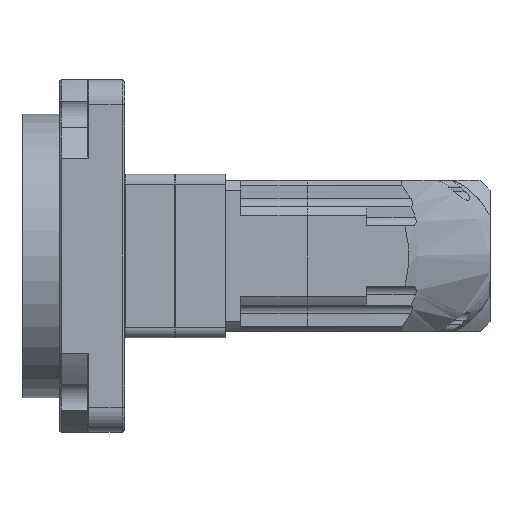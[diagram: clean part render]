
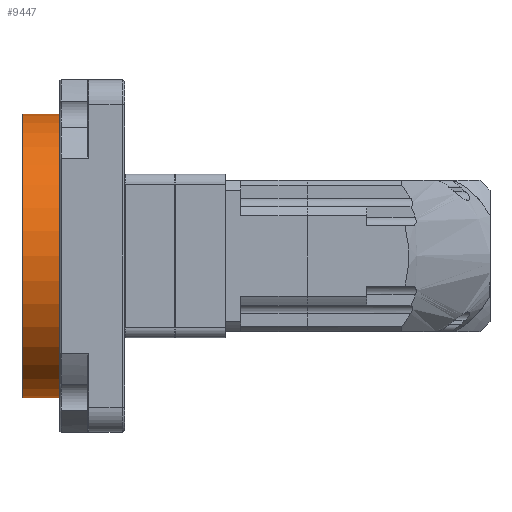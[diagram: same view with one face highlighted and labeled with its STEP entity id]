
A CAD part, left-side view. The second image highlights one B-rep face of the part: STEP entity #9447.
In plain terms, the highlighted cylindrical face has radius 112.5 mm (diameter 225 mm), a partial arc.
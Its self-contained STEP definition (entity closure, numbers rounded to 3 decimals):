
#6621 = CONICAL_SURFACE('',#6622,112.5,0.785);
#6622 = AXIS2_PLACEMENT_3D('',#6623,#6624,#6625);
#6623 = CARTESIAN_POINT('',(-229.364,88.399,
    345.));
#6624 = DIRECTION('',(0.,-1.,0.));
#6625 = DIRECTION('',(0.,0.,-1.));
#7729 = VERTEX_POINT('',#7730);
#7730 = CARTESIAN_POINT('',(-229.364,88.399,
    457.5));
#7753 = VERTEX_POINT('',#7754);
#7754 = CARTESIAN_POINT('',(-229.364,88.399,
    232.5));
#7775 = EDGE_CURVE('',#7729,#7753,#7776,.T.);
#7776 = SURFACE_CURVE('',#7777,(#7782,#7789),.PCURVE_S1.);
#7777 = CIRCLE('',#7778,112.5);
#7778 = AXIS2_PLACEMENT_3D('',#7779,#7780,#7781);
#7779 = CARTESIAN_POINT('',(-229.364,88.399,
    345.));
#7780 = DIRECTION('',(0.,-1.,-0.));
#7781 = DIRECTION('',(0.,0.,-1.));
#7782 = PCURVE('',#6621,#7783);
#7783 = DEFINITIONAL_REPRESENTATION('',(#7784),#7788);
#7784 = LINE('',#7785,#7786);
#7785 = CARTESIAN_POINT('',(0.,0.));
#7786 = VECTOR('',#7787,1.);
#7787 = DIRECTION('',(1.,0.));
#7788 = ( GEOMETRIC_REPRESENTATION_CONTEXT(2) 
PARAMETRIC_REPRESENTATION_CONTEXT() REPRESENTATION_CONTEXT('2D SPACE',''
  ) );
#7789 = PCURVE('',#7790,#7795);
#7790 = CYLINDRICAL_SURFACE('',#7791,112.5);
#7791 = AXIS2_PLACEMENT_3D('',#7792,#7793,#7794);
#7792 = CARTESIAN_POINT('',(-229.364,88.899,
    345.));
#7793 = DIRECTION('',(-0.,-1.,-0.));
#7794 = DIRECTION('',(0.,0.,-1.));
#7795 = DEFINITIONAL_REPRESENTATION('',(#7796),#7800);
#7796 = LINE('',#7797,#7798);
#7797 = CARTESIAN_POINT('',(0.,0.5));
#7798 = VECTOR('',#7799,1.);
#7799 = DIRECTION('',(1.,0.));
#7800 = ( GEOMETRIC_REPRESENTATION_CONTEXT(2) 
PARAMETRIC_REPRESENTATION_CONTEXT() REPRESENTATION_CONTEXT('2D SPACE',''
  ) );
#7822 = CYLINDRICAL_SURFACE('',#7823,112.5);
#7823 = AXIS2_PLACEMENT_3D('',#7824,#7825,#7826);
#7824 = CARTESIAN_POINT('',(-229.364,88.899,
    345.));
#7825 = DIRECTION('',(-0.,-1.,-0.));
#7826 = DIRECTION('',(0.,0.,-1.));
#9447 = ADVANCED_FACE('',(#9448),#7790,.T.);
#9448 = FACE_BOUND('',#9449,.T.);
#9449 = EDGE_LOOP('',(#9450,#9473,#9474,#9497));
#9450 = ORIENTED_EDGE('',*,*,#9451,.F.);
#9451 = EDGE_CURVE('',#7729,#9452,#9454,.T.);
#9452 = VERTEX_POINT('',#9453);
#9453 = CARTESIAN_POINT('',(-229.364,58.899,
    457.5));
#9454 = SURFACE_CURVE('',#9455,(#9459,#9466),.PCURVE_S1.);
#9455 = LINE('',#9456,#9457);
#9456 = CARTESIAN_POINT('',(-229.364,88.899,
    457.5));
#9457 = VECTOR('',#9458,1.);
#9458 = DIRECTION('',(-0.,-1.,-0.));
#9459 = PCURVE('',#7790,#9460);
#9460 = DEFINITIONAL_REPRESENTATION('',(#9461),#9465);
#9461 = LINE('',#9462,#9463);
#9462 = CARTESIAN_POINT('',(3.142,0.));
#9463 = VECTOR('',#9464,1.);
#9464 = DIRECTION('',(0.,1.));
#9465 = ( GEOMETRIC_REPRESENTATION_CONTEXT(2) 
PARAMETRIC_REPRESENTATION_CONTEXT() REPRESENTATION_CONTEXT('2D SPACE',''
  ) );
#9466 = PCURVE('',#7822,#9467);
#9467 = DEFINITIONAL_REPRESENTATION('',(#9468),#9472);
#9468 = LINE('',#9469,#9470);
#9469 = CARTESIAN_POINT('',(3.142,0.));
#9470 = VECTOR('',#9471,1.);
#9471 = DIRECTION('',(0.,1.));
#9472 = ( GEOMETRIC_REPRESENTATION_CONTEXT(2) 
PARAMETRIC_REPRESENTATION_CONTEXT() REPRESENTATION_CONTEXT('2D SPACE',''
  ) );
#9473 = ORIENTED_EDGE('',*,*,#7775,.T.);
#9474 = ORIENTED_EDGE('',*,*,#9475,.T.);
#9475 = EDGE_CURVE('',#7753,#9476,#9478,.T.);
#9476 = VERTEX_POINT('',#9477);
#9477 = CARTESIAN_POINT('',(-229.364,58.899,
    232.5));
#9478 = SURFACE_CURVE('',#9479,(#9483,#9490),.PCURVE_S1.);
#9479 = LINE('',#9480,#9481);
#9480 = CARTESIAN_POINT('',(-229.364,88.899,
    232.5));
#9481 = VECTOR('',#9482,1.);
#9482 = DIRECTION('',(-0.,-1.,-0.));
#9483 = PCURVE('',#7790,#9484);
#9484 = DEFINITIONAL_REPRESENTATION('',(#9485),#9489);
#9485 = LINE('',#9486,#9487);
#9486 = CARTESIAN_POINT('',(6.283,0.));
#9487 = VECTOR('',#9488,1.);
#9488 = DIRECTION('',(0.,1.));
#9489 = ( GEOMETRIC_REPRESENTATION_CONTEXT(2) 
PARAMETRIC_REPRESENTATION_CONTEXT() REPRESENTATION_CONTEXT('2D SPACE',''
  ) );
#9490 = PCURVE('',#7822,#9491);
#9491 = DEFINITIONAL_REPRESENTATION('',(#9492),#9496);
#9492 = LINE('',#9493,#9494);
#9493 = CARTESIAN_POINT('',(0.,0.));
#9494 = VECTOR('',#9495,1.);
#9495 = DIRECTION('',(0.,1.));
#9496 = ( GEOMETRIC_REPRESENTATION_CONTEXT(2) 
PARAMETRIC_REPRESENTATION_CONTEXT() REPRESENTATION_CONTEXT('2D SPACE',''
  ) );
#9497 = ORIENTED_EDGE('',*,*,#9498,.F.);
#9498 = EDGE_CURVE('',#9452,#9476,#9499,.T.);
#9499 = SURFACE_CURVE('',#9500,(#9505,#9512),.PCURVE_S1.);
#9500 = CIRCLE('',#9501,112.5);
#9501 = AXIS2_PLACEMENT_3D('',#9502,#9503,#9504);
#9502 = CARTESIAN_POINT('',(-229.364,58.899,
    345.));
#9503 = DIRECTION('',(0.,-1.,-0.));
#9504 = DIRECTION('',(0.,0.,-1.));
#9505 = PCURVE('',#7790,#9506);
#9506 = DEFINITIONAL_REPRESENTATION('',(#9507),#9511);
#9507 = LINE('',#9508,#9509);
#9508 = CARTESIAN_POINT('',(0.,30.));
#9509 = VECTOR('',#9510,1.);
#9510 = DIRECTION('',(1.,0.));
#9511 = ( GEOMETRIC_REPRESENTATION_CONTEXT(2) 
PARAMETRIC_REPRESENTATION_CONTEXT() REPRESENTATION_CONTEXT('2D SPACE',''
  ) );
#9512 = PCURVE('',#9513,#9518);
#9513 = PLANE('',#9514);
#9514 = AXIS2_PLACEMENT_3D('',#9515,#9516,#9517);
#9515 = CARTESIAN_POINT('',(-109.364,58.899,
    225.));
#9516 = DIRECTION('',(0.,1.,0.));
#9517 = DIRECTION('',(0.,-0.,1.));
#9518 = DEFINITIONAL_REPRESENTATION('',(#9519),#9527);
#9519 = ( BOUNDED_CURVE() B_SPLINE_CURVE(2,(#9520,#9521,#9522,#9523,
#9524,#9525,#9526),.UNSPECIFIED.,.T.,.F.) B_SPLINE_CURVE_WITH_KNOTS((1,2
    ,2,2,2,1),(-2.094,0.,2.094,4.189,
6.283,8.378),.UNSPECIFIED.) CURVE() 
GEOMETRIC_REPRESENTATION_ITEM() RATIONAL_B_SPLINE_CURVE((1.,0.5,1.,0.5,
1.,0.5,1.)) REPRESENTATION_ITEM('') );
#9520 = CARTESIAN_POINT('',(7.5,-120.));
#9521 = CARTESIAN_POINT('',(7.5,74.856));
#9522 = CARTESIAN_POINT('',(176.25,-22.572));
#9523 = CARTESIAN_POINT('',(345.,-120.));
#9524 = CARTESIAN_POINT('',(176.25,-217.428));
#9525 = CARTESIAN_POINT('',(7.5,-314.856));
#9526 = CARTESIAN_POINT('',(7.5,-120.));
#9527 = ( GEOMETRIC_REPRESENTATION_CONTEXT(2) 
PARAMETRIC_REPRESENTATION_CONTEXT() REPRESENTATION_CONTEXT('2D SPACE',''
  ) );
